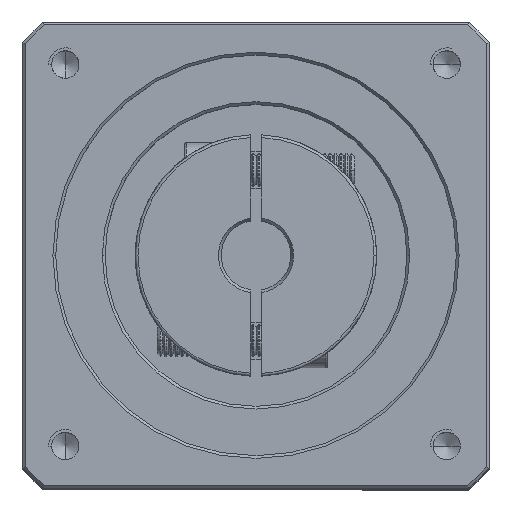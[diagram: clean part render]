
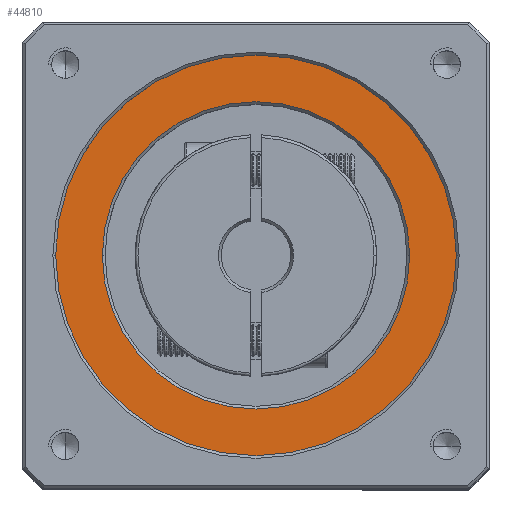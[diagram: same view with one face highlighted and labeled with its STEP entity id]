
A CAD part, top view. The second image highlights one B-rep face of the part: STEP entity #44810.
In plain terms, the highlighted planar face has unit normal (0, 0, 1).
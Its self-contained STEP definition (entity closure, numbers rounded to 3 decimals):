
#1772 = VERTEX_POINT ( 'NONE', #54759 ) ;
#5915 = DIRECTION ( 'NONE',  ( 1., 0., 0. ) ) ;
#8224 = EDGE_CURVE ( 'NONE', #95477, #1772, #69666, .T. ) ;
#22284 = CARTESIAN_POINT ( 'NONE',  ( 17.696, 7.876, 176.5 ) ) ;
#22636 = CIRCLE ( 'NONE', #40994, 28. ) ;
#22996 = DIRECTION ( 'NONE',  ( 0., 0., 1. ) ) ;
#24954 = EDGE_LOOP ( 'NONE', ( #38815, #30792 ) ) ;
#29327 = ORIENTED_EDGE ( 'NONE', *, *, #30845, .T. ) ;
#29598 = ORIENTED_EDGE ( 'NONE', *, *, #98131, .T. ) ;
#30089 = VERTEX_POINT ( 'NONE', #65623 ) ;
#30792 = ORIENTED_EDGE ( 'NONE', *, *, #8224, .T. ) ;
#30845 = EDGE_CURVE ( 'NONE', #30089, #77779, #35520, .T. ) ;
#32775 = CARTESIAN_POINT ( 'NONE',  ( -10.304, 7.876, 176.5 ) ) ;
#32944 = DIRECTION ( 'NONE',  ( 0., 0., 1. ) ) ;
#35520 = CIRCLE ( 'NONE', #46514, 28. ) ;
#38815 = ORIENTED_EDGE ( 'NONE', *, *, #49656, .T. ) ;
#40994 = AXIS2_PLACEMENT_3D ( 'NONE', #104322, #55117, #5915 ) ;
#41049 = DIRECTION ( 'NONE',  ( 1., 0., 0. ) ) ;
#44599 = CARTESIAN_POINT ( 'NONE',  ( -10.304, 7.876, 176.5 ) ) ;
#44810 = ADVANCED_FACE ( 'NONE', ( #75872, #53970 ), #98101, .T. ) ;
#46514 = AXIS2_PLACEMENT_3D ( 'NONE', #44599, #102033, #52884 ) ;
#49656 = EDGE_CURVE ( 'NONE', #1772, #95477, #68080, .T. ) ;
#51588 = CARTESIAN_POINT ( 'NONE',  ( -46.804, 7.876, 176.5 ) ) ;
#52884 = DIRECTION ( 'NONE',  ( 1., 0., 0. ) ) ;
#53970 = FACE_BOUND ( 'NONE', #90993, .T. ) ;
#54759 = CARTESIAN_POINT ( 'NONE',  ( 26.196, 7.876, 176.5 ) ) ;
#55117 = DIRECTION ( 'NONE',  ( 0., 0., -1. ) ) ;
#65623 = CARTESIAN_POINT ( 'NONE',  ( -38.304, 7.876, 176.5 ) ) ;
#65659 = AXIS2_PLACEMENT_3D ( 'NONE', #32775, #90234, #41049 ) ;
#68080 = CIRCLE ( 'NONE', #77965, 36.5 ) ;
#69666 = CIRCLE ( 'NONE', #98942, 36.5 ) ;
#72207 = CARTESIAN_POINT ( 'NONE',  ( -10.304, 7.876, 176.5 ) ) ;
#75872 = FACE_OUTER_BOUND ( 'NONE', #24954, .T. ) ;
#77779 = VERTEX_POINT ( 'NONE', #22284 ) ;
#77965 = AXIS2_PLACEMENT_3D ( 'NONE', #72207, #22996, #80423 ) ;
#80423 = DIRECTION ( 'NONE',  ( 1., 0., 0. ) ) ;
#82127 = CARTESIAN_POINT ( 'NONE',  ( -10.304, 7.876, 176.5 ) ) ;
#90234 = DIRECTION ( 'NONE',  ( 0., 0., 1. ) ) ;
#90411 = DIRECTION ( 'NONE',  ( 1., 0., 0. ) ) ;
#90993 = EDGE_LOOP ( 'NONE', ( #29598, #29327 ) ) ;
#95477 = VERTEX_POINT ( 'NONE', #51588 ) ;
#98101 = PLANE ( 'NONE',  #65659 ) ;
#98131 = EDGE_CURVE ( 'NONE', #77779, #30089, #22636, .T. ) ;
#98942 = AXIS2_PLACEMENT_3D ( 'NONE', #82127, #32944, #90411 ) ;
#102033 = DIRECTION ( 'NONE',  ( 0., 0., -1. ) ) ;
#104322 = CARTESIAN_POINT ( 'NONE',  ( -10.304, 7.876, 176.5 ) ) ;
